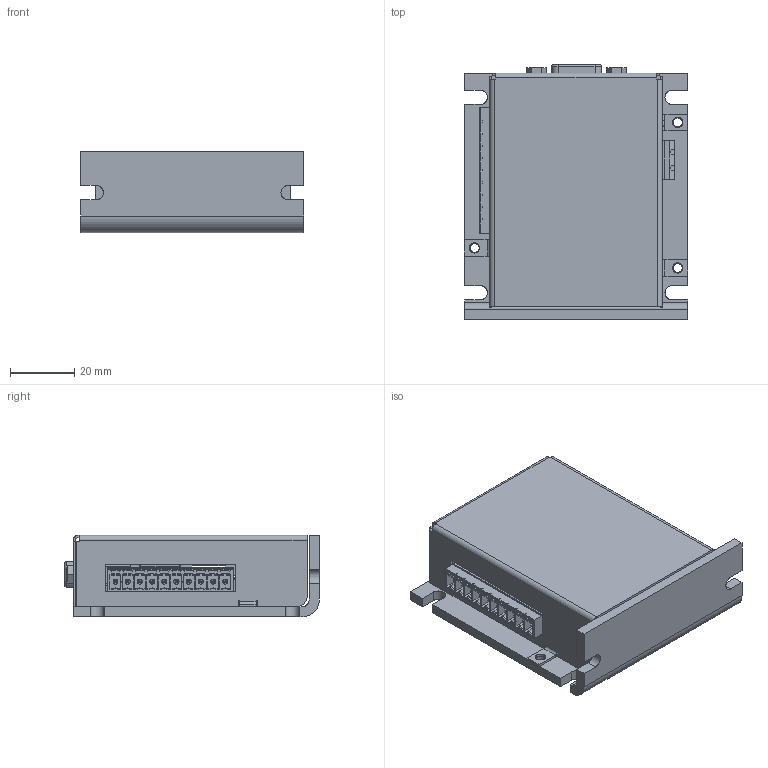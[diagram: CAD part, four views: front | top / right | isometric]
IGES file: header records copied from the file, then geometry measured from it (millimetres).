
Start section: SolidWorks IGES file using analytic representation for surfaces
Global section: file name: C:\Users\Engineering\Documents\Drawing\CAD\Arcus Enclosure\ACE-Assembly\ACE-SXC\ACE-SXC-external.IGS; native system: SolidWorks 2011; preprocessor: SolidWorks 2011; author: Engineering; date: 110801.100110; units: inch
Bounding box: 69.85 x 79.45 x 25.4 mm (x, y, z)
Surface area: 38401.4 mm2 (no closed solid volume)
Topology: 0 solids, 0 shells, 1412 faces, 11592 edges, 11570 vertices
Faces by surface type: bspline 1036, revolution 376
